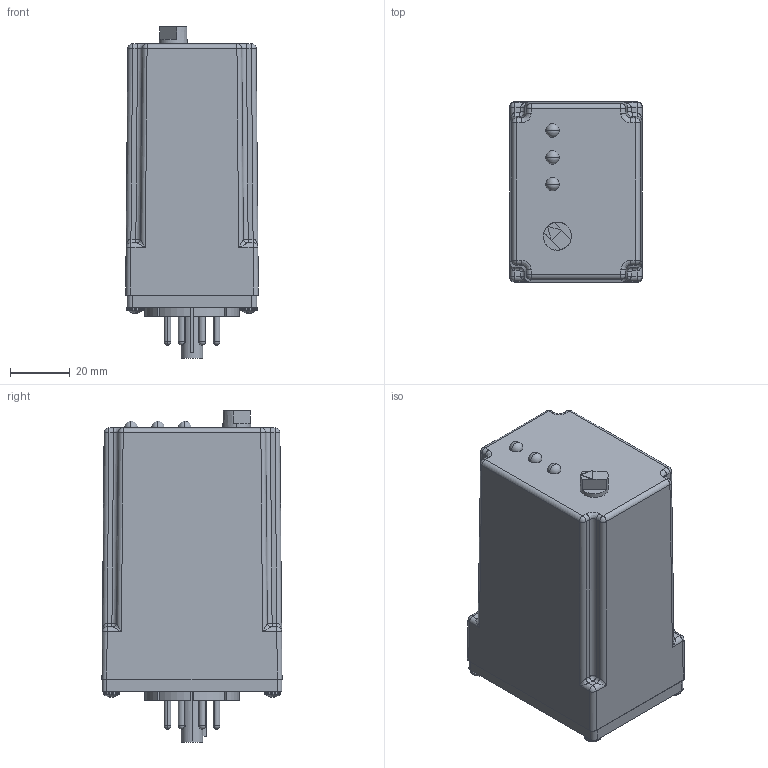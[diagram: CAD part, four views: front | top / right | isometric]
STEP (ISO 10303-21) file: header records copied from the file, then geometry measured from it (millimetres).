
FILE_DESCRIPTION (( 'STEP AP214' ), '1' );
FILE_NAME ('ATP w-Switch.STEP', '2019-07-02T02:28:33', ( '' ), ( '' ), 'SwSTEP 2.0', 'SolidWorks 2019', '' );
FILE_SCHEMA (( 'AUTOMOTIVE_DESIGN' ));
Length unit declared in the file: millimetre
Products named in the file (1): ATP w-Switch
Bounding box: 44.45 x 60.33 x 111.22 mm (x, y, z)
Volume: 226449.4 mm3; surface area: 31077.1 mm2
Topology: 17 solids, 17 shells, 700 faces, 1849 edges, 1175 vertices
Faces by surface type: cylinder 280, plane 230, bspline 114, cone 42, sphere 34
Entity records: 37591 total; most frequent: CARTESIAN_POINT 16589, ORIENTED_EDGE 3578, DIRECTION 2656, EDGE_CURVE 1789, VERTEX_POINT 1153, AXIS2_PLACEMENT_3D 936, LINE 784, VECTOR 784
